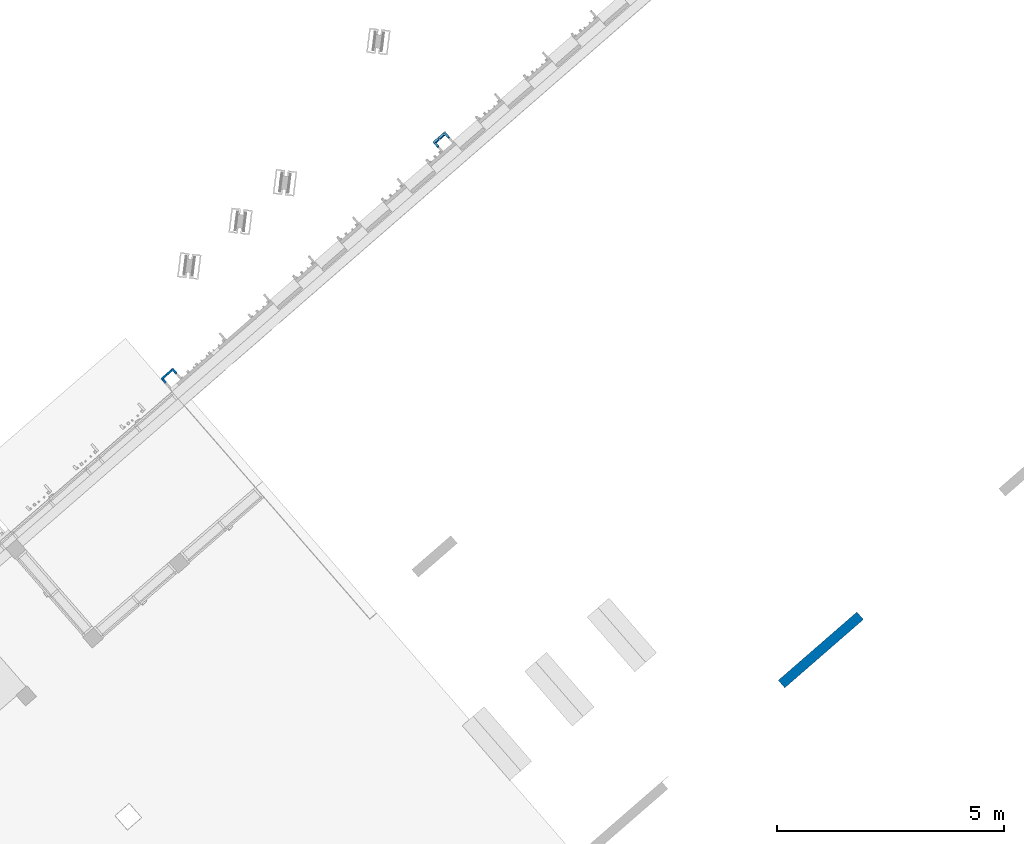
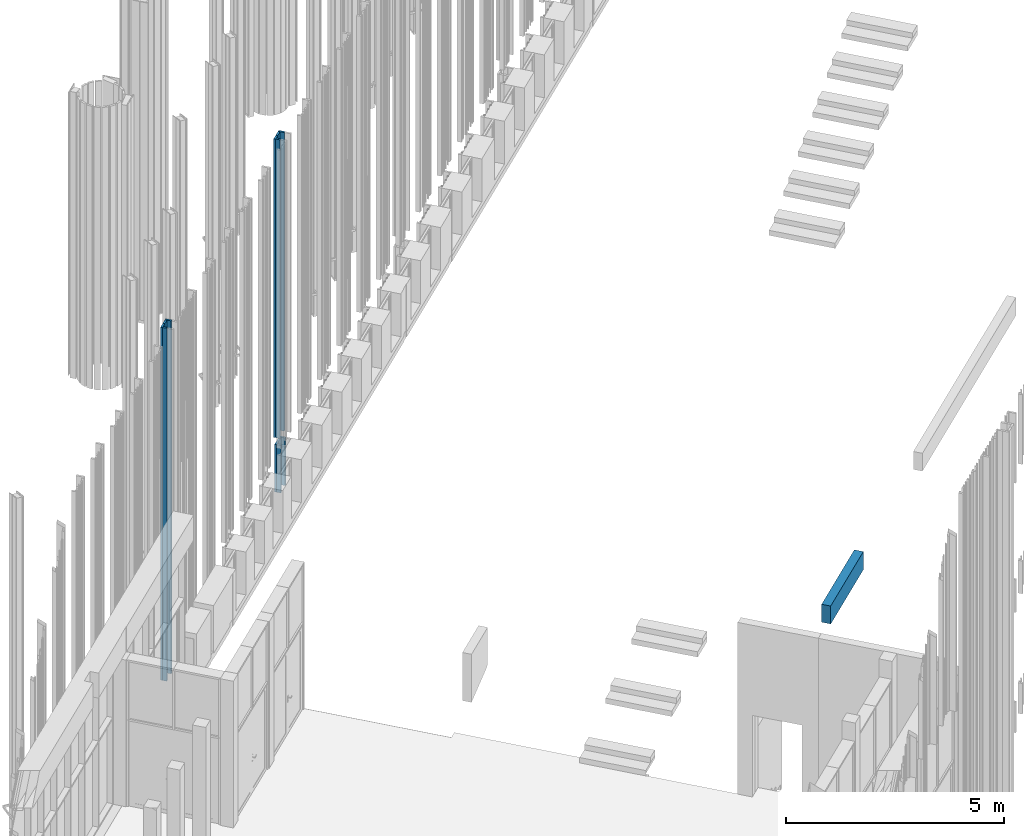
# One storey, part 20 of 390: 13 walls.
"""IFC2X3 building model written with IfcOpenShell, lengths in millimetres."""

import ifcopenshell
import ifcopenshell.guid

model = None  # the IFC model being written
_history = None  # IfcOwnerHistory: only IFC2X3 demands one
_inside = {}  # id of a spatial element -> (the spatial element, [elements in it])
_under = {}  # id of a project, library or spatial element -> (it, [spatial elements below it])
_declared = {}  # id of a project -> (the project, [libraries it declares])
_typed = {}  # id of a type object -> (the type object, [elements of that type])
_made_of = {}  # id of a material, layer set ... -> (it, [elements and type objects made of it])


def new_model(schema):
    """Start an empty IFC model of exactly this schema.

    Asked for "IFC4X3", IfcOpenShell would pick the latest addendum, in which some entities
    have other attributes; the version numbers below select the first issue.
    IFC2X3 requires an IfcOwnerHistory on every rooted entity: one is made here for all.
    """
    global model, _history
    if schema == "IFC4X3":
        model = ifcopenshell.file(schema_version=(4, 3, 0, 0))
    else:
        model = ifcopenshell.file(schema=schema)
    _inside.clear()
    _under.clear()
    _declared.clear()
    _typed.clear()
    _made_of.clear()
    _history = None
    if model.schema == "IFC2X3":
        org = make("IfcOrganization", Name="unknown")
        user = make(
            "IfcPersonAndOrganization",
            ThePerson=make("IfcPerson", FamilyName="unknown"),
            TheOrganization=org,
        )
        app = make(
            "IfcApplication",
            ApplicationDeveloper=org,
            Version="unknown",
            ApplicationFullName="unknown",
            ApplicationIdentifier="unknown",
        )
        _history = make(
            "IfcOwnerHistory",
            OwningUser=user,
            OwningApplication=app,
            ChangeAction="ADDED",
            CreationDate=0,
        )
    return model


def make(cls, **values):
    """One entity of the class cls with the attributes given. An attribute that is None is left unset."""
    return model.create_entity(
        cls, **{name: value for name, value in values.items() if value is not None}
    )


def entity(cls, *values):
    """Any entity or typed value of the class cls, its attributes in the order of the schema. None: left unset."""
    e = model.create_entity(cls)
    for i, value in enumerate(values):
        if value is not None:
            e[i] = value
    return e


def rooted(cls, **values):
    """An entity with a GlobalId (a new one), such as an element, a storey or a relation."""
    return make(cls, GlobalId=ifcopenshell.guid.new(), OwnerHistory=_history, **values)


def si_unit(unit_type, name, prefix=None):
    """IfcSIUnit, for example si_unit("LENGTHUNIT", "METRE", prefix="MILLI")."""
    return make("IfcSIUnit", UnitType=unit_type, Prefix=prefix, Name=name)


def converted_unit(unit_type, name, factor, base, dimensions=None, offset=None):
    """IfcConversionBasedUnit, such as the inch: factor (a typed value) times the base unit."""
    return make(
        "IfcConversionBasedUnit"
        if offset is None
        else "IfcConversionBasedUnitWithOffset",
        ConversionOffset=offset,
        Dimensions=None
        if dimensions is None
        else entity("IfcDimensionalExponents", *dimensions),
        UnitType=unit_type,
        Name=name,
        ConversionFactor=make(
            "IfcMeasureWithUnit", ValueComponent=factor, UnitComponent=base
        ),
    )


def derived_unit(unit_type, elements):
    """IfcDerivedUnit: a product of units, each with its exponent."""
    return make(
        "IfcDerivedUnit",
        Elements=[
            make("IfcDerivedUnitElement", Unit=unit, Exponent=power)
            for unit, power in elements
        ],
        UnitType=unit_type,
    )


def money_unit(currency):
    """IfcMonetaryUnit."""
    return make("IfcMonetaryUnit", Currency=currency)


def assignment(units):
    """IfcUnitAssignment: the units of a project."""
    return None if units is None else make("IfcUnitAssignment", Units=units)


def point(xyz):
    """IfcCartesianPoint."""
    return None if xyz is None else make("IfcCartesianPoint", Coordinates=xyz)


def direction(xyz):
    """IfcDirection."""
    return None if xyz is None else make("IfcDirection", DirectionRatios=xyz)


def frame(location, z_axis=None, x_axis=None):
    """IfcAxis2Placement3D, a coordinate frame: its origin and axes. An axis left out is left unset."""
    return make(
        "IfcAxis2Placement3D",
        Location=point(location),
        Axis=direction(z_axis),
        RefDirection=direction(x_axis),
    )


def frame_2d(location, x_axis=None):
    """IfcAxis2Placement2D, a coordinate frame in the plane: its origin and x axis."""
    return make(
        "IfcAxis2Placement2D", Location=point(location), RefDirection=direction(x_axis)
    )


def origin_with_axes():
    """The frame at (0, 0, 0) with the z axis (0, 0, 1) and the x axis (1, 0, 0) written out."""
    return frame((0.0, 0.0, 0.0), z_axis=(0.0, 0.0, 1.0), x_axis=(1.0, 0.0, 0.0))


def origin_2d_with_axis():
    """The frame at (0, 0) in the plane with the x axis (1, 0) written out."""
    return frame_2d((0.0, 0.0), x_axis=(1.0, 0.0))


def place(relative_to, where):
    """IfcLocalPlacement: puts the frame where relative to a parent placement (None: the world)."""
    return make(
        "IfcLocalPlacement", PlacementRelTo=relative_to, RelativePlacement=where
    )


def context(
    kind, dimensions, precision=None, world=None, true_north=None, identifier=None
):
    """IfcGeometricRepresentationContext, for example the 3D "Model" context."""
    return make(
        "IfcGeometricRepresentationContext",
        ContextIdentifier=identifier,
        ContextType=kind,
        CoordinateSpaceDimension=dimensions,
        Precision=precision,
        WorldCoordinateSystem=world,
        TrueNorth=true_north,
    )


def subcontext(parent, identifier, kind, view, scale=None):
    """IfcGeometricRepresentationSubContext, for example "Body" below "Model"."""
    return make(
        "IfcGeometricRepresentationSubContext",
        ContextIdentifier=identifier,
        ContextType=kind,
        ParentContext=parent,
        TargetScale=scale,
        TargetView=view,
    )


def project(units=None, contexts=None):
    """IfcProject with its units and contexts."""
    return rooted(
        "IfcProject",
        Name="project",
        RepresentationContexts=contexts,
        UnitsInContext=assignment(units),
    )


def spatial(cls, under=None, at=None, **own):
    """A site, building, storey or space (cls), placed at a placement, below another one or the project."""
    s = rooted(cls, ObjectPlacement=at, **own)
    if under is not None:
        _under.setdefault(under.id(), (under, []))[1].append(s)
    return s


def polyline(points):
    """IfcPolyline through the points."""
    return make("IfcPolyline", Points=[point(p) for p in points])


def profile(cls, at=None, kind="AREA", **sizes):
    """A parametric profile (cls). Its sizes go by their IFC names, for example OverallWidth=200.0."""
    return make(cls, ProfileType=kind, Position=at, **sizes)


def rectangle(**sizes):
    """IfcRectangleProfileDef."""
    return profile("IfcRectangleProfileDef", **sizes)


def outline(outer, holes=None, kind="AREA"):
    """IfcArbitraryClosedProfileDef: a profile drawn as a closed curve; with holes, ...WithVoids."""
    if holes is None:
        return make("IfcArbitraryClosedProfileDef", ProfileType=kind, OuterCurve=outer)
    return make(
        "IfcArbitraryProfileDefWithVoids",
        ProfileType=kind,
        OuterCurve=outer,
        InnerCurves=holes,
    )


def extrude(swept, where, along, depth):
    """IfcExtrudedAreaSolid: the profile swept, set in the frame where, extruded along a direction by depth."""
    return make(
        "IfcExtrudedAreaSolid",
        SweptArea=swept,
        Position=where,
        ExtrudedDirection=direction(along),
        Depth=depth,
    )


def shape(context_of_items, identifier, shape_type, items):
    """IfcShapeRepresentation: the items that make up one representation, for example the "Body"."""
    return make(
        "IfcShapeRepresentation",
        ContextOfItems=context_of_items,
        RepresentationIdentifier=identifier,
        RepresentationType=shape_type,
        Items=items,
    )


def material(Name=None, Category=None):
    """IfcMaterial."""
    return make("IfcMaterial", Name=Name, Category=Category)


def layer(
    of_material, thickness, ventilated=None, Name=None, Category=None, Priority=None
):
    """IfcMaterialLayer: one layer of a wall or slab, of a material (None: an air gap)."""
    return make(
        "IfcMaterialLayer",
        Material=of_material,
        LayerThickness=thickness,
        IsVentilated=ventilated,
        Name=Name,
        Category=Category,
        Priority=Priority,
    )


def layer_set(layers, Name=None):
    """IfcMaterialLayerSet."""
    return make("IfcMaterialLayerSet", MaterialLayers=layers, LayerSetName=Name)


def layer_usage(for_layer_set, set_direction, sense, offset, extent=None):
    """IfcMaterialLayerSetUsage: how a layer set lies in its element."""
    return make(
        "IfcMaterialLayerSetUsage",
        ForLayerSet=for_layer_set,
        LayerSetDirection=set_direction,
        DirectionSense=sense,
        OffsetFromReferenceLine=offset,
        ReferenceExtent=extent,
    )


def made_of(thing, what):
    """Note that an element or type object is made of a material, layer set ...; save() writes the relation."""
    if what is not None:
        _made_of.setdefault(what.id(), (what, []))[1].append(thing)
    return thing


def type_object(cls, material=None, **own):
    """A type object (cls), such as IfcWallType, which elements share."""
    return made_of(rooted(cls, **own), material)


def element(
    cls,
    number,
    at=None,
    inside=None,
    cuts=None,
    type_object=None,
    material=None,
    context=None,
    identifier="Body",
    shape_type=None,
    held_by="IfcProductDefinitionShape",
    body=None,
    shapes=None,
    **own,
):
    """One element of the class cls, such as IfcWall. Its Tag is "e" and its number.

    at: its placement. inside: the storey or other place that contains it. cuts: it is an
    opening in that element (IfcRelVoidsElement). A single representation is given by context,
    identifier, shape_type and body (its items); several are given by shapes. held_by: the class
    of the entity that holds the representations. save() writes the other relations.
    """
    e = rooted(cls, Tag="e%d" % number, ObjectPlacement=at, **own)
    if body is not None:
        shapes = [shape(context, identifier, shape_type, body)]
    if shapes is not None:
        e.Representation = make(held_by, Representations=shapes)
    if inside is not None:
        _inside.setdefault(inside.id(), (inside, []))[1].append(e)
    if cuts is not None:
        rooted(
            "IfcRelVoidsElement", RelatingBuildingElement=cuts, RelatedOpeningElement=e
        )
    if type_object is not None:
        _typed.setdefault(type_object.id(), (type_object, []))[1].append(e)
    return made_of(e, material)


def aggregate(whole, parts):
    """IfcRelAggregates: a whole, such as a stair, and the parts it consists of."""
    return rooted("IfcRelAggregates", RelatingObject=whole, RelatedObjects=parts)


def save(model, path):
    """Write the relations noted so far, then the file.

    IfcRelAggregates (storeys below a building ...), IfcRelContainedInSpatialStructure (elements
    in a storey), IfcRelDefinesByType, IfcRelAssociatesMaterial and IfcRelDeclares: one each for
    every whole, place, type object, material and project.
    """
    for whole, parts in _under.values():
        aggregate(whole, parts)
    for where, things in _inside.values():
        rooted(
            "IfcRelContainedInSpatialStructure",
            RelatedElements=things,
            RelatingStructure=where,
        )
    for kind, things in _typed.values():
        rooted("IfcRelDefinesByType", RelatedObjects=things, RelatingType=kind)
    for what, things in _made_of.values():
        rooted("IfcRelAssociatesMaterial", RelatedObjects=things, RelatingMaterial=what)
    for by, libraries in _declared.values():
        rooted("IfcRelDeclares", RelatingContext=by, RelatedDefinitions=libraries)
    model.write(path)


model = new_model("IFC2X3")

# Units and contexts
model_context = context("Model", 3, precision=1e-05, world=origin_with_axes(), true_north=direction((0.0, 1.0)))
body_context = subcontext(model_context, "Body", "Model", "MODEL_VIEW")
ifc_project = project(units=[si_unit("LENGTHUNIT", "METRE", prefix="MILLI"), si_unit("AREAUNIT", "SQUARE_METRE"), si_unit("VOLUMEUNIT", "CUBIC_METRE"), converted_unit("PLANEANGLEUNIT", "DEGREE", entity("IfcPlaneAngleMeasure", 0.0174532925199), si_unit("PLANEANGLEUNIT", "RADIAN"), dimensions=[0, 0, 0, 0, 0, 0, 0]), si_unit("SOLIDANGLEUNIT", "STERADIAN"), money_unit("EUR"), converted_unit("TIMEUNIT", "Year", entity("IfcTimeMeasure", 31556926.0), si_unit("TIMEUNIT", "SECOND"), dimensions=[0, 0, 1, 0, 0, 0, 0]), si_unit("MASSUNIT", "GRAM", prefix="KILO"), si_unit("THERMODYNAMICTEMPERATUREUNIT", "DEGREE_CELSIUS"), si_unit("LUMINOUSINTENSITYUNIT", "LUMEN"), si_unit("ENERGYUNIT", "JOULE", prefix="MEGA"), derived_unit("THERMALCONDUCTANCEUNIT", [(si_unit("POWERUNIT", "WATT"), 1), (si_unit("LENGTHUNIT", "METRE"), -1), (si_unit("THERMODYNAMICTEMPERATUREUNIT", "KELVIN"), -1)]), derived_unit("SPECIFICHEATCAPACITYUNIT", [(si_unit("ENERGYUNIT", "JOULE"), 1), (si_unit("MASSUNIT", "GRAM", prefix="KILO"), -1), (si_unit("THERMODYNAMICTEMPERATUREUNIT", "KELVIN"), -1)]), derived_unit("MASSDENSITYUNIT", [(si_unit("MASSUNIT", "GRAM", prefix="KILO"), 1), (si_unit("VOLUMEUNIT", "CUBIC_METRE"), -1)])], contexts=[model_context])

# Site, building, storey
site_placement = place(None, origin_with_axes())
site = spatial("IfcSite", under=ifc_project, at=site_placement, Name="Site", CompositionType="ELEMENT")
building_placement = place(site_placement, origin_with_axes())
building = spatial("IfcBuilding", under=site, at=building_placement, Name="Building", CompositionType="ELEMENT")
storey_placement = place(building_placement, origin_with_axes())
storey = spatial("IfcBuildingStorey", under=building, at=storey_placement, Name="1 korrus", CompositionType="ELEMENT", Elevation=0.0)

# Walls
ifc_material_1 = material(Name="Krohv - Lubjakivi")
ifc_layer_1 = layer(ifc_material_1, 10.0, ventilated="UNKNOWN")
ifc_material_2 = material(Name="Raudbetoon - Konstruktsioon")
ifc_layer_2 = layer(ifc_material_2, 200.0, ventilated="UNKNOWN")
ifc_layer_3 = layer(ifc_material_1, 10.0, ventilated="UNKNOWN")
ifc_layer_set = layer_set([ifc_layer_1, ifc_layer_2, ifc_layer_3], Name="SS-10")
ifc_layer_usage = layer_usage(ifc_layer_set, "AXIS2", "NEGATIVE", 0.0)
wall_type_1 = type_object("IfcWallType", Name="SS-10", PredefinedType="NOTDEFINED")
wall_1_placement = place(storey_placement, frame((151577.864835, 83367.456539, 885.0), z_axis=(0.0, 0.0, 1.0), x_axis=(-0.754709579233, -0.656059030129, 0.0)))
element("IfcWallStandardCase", 1, at=wall_1_placement, inside=storey, type_object=wall_type_1, material=ifc_layer_usage, Name="SS-10", context=body_context, shape_type="SweptSolid", body=[
    extrude(outline(polyline([(0.0, -220.0), (2300.00172594, -220.0), (2300.00172594, 0.0), (0.0, 0.0), (0.0, -220.0)])), origin_with_axes(), (0.0, 0.0, 1.0), 500.0),
])
ifc_material_3 = material(Name="Site specified")
wall_type_2 = type_object("IfcWallType", Name="Puitfassaadi ribisik", PredefinedType="NOTDEFINED")
for number, where, z_axis, x_axis, name in (
    (2, (136367.654292, 88850.6367943, 0.0), (0.0, 0.0, 1.0), (0.754709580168, 0.656059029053, 0.0), "Site specified"),
    (3, (136255.606835, 88819.4860753, 0.0), (0.0, 0.0, 1.0), (-0.656059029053, 0.754709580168, 0.0), "Site specified"),
):
    element("IfcWall", number, at=place(storey_placement, frame(where, z_axis=z_axis, x_axis=x_axis)), inside=storey, type_object=wall_type_2, material=ifc_material_3, Name=name, context=body_context, shape_type="SweptSolid", body=[
        extrude(rectangle(XDim=50.0, YDim=150.0, at=origin_2d_with_axis()), origin_with_axes(), (0.0, 0.0, 1.0), 9864.9999949),
    ])
wall_2_placement = place(storey_placement, frame((136150.095796, 88628.3907083, 0.0), z_axis=(0.0, 0.0, 1.0), x_axis=(0.754709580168, 0.656059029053, 0.0)))
element("IfcWall", 4, at=wall_2_placement, inside=storey, type_object=wall_type_2, material=ifc_material_3, Name="Site specified", context=body_context, shape_type="SweptSolid", body=[
    extrude(rectangle(XDim=50.0, YDim=100.000069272, at=origin_2d_with_axis()), origin_with_axes(), (0.0, 0.0, 1.0), 9864.9999949),
])
wall_3_placement = place(storey_placement, frame((136138.62685, 88717.7969257, 0.0), z_axis=(0.0, 0.0, 1.0), x_axis=(-0.656059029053, 0.754709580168, 0.0)))
element("IfcWall", 5, at=wall_3_placement, inside=storey, type_object=wall_type_2, material=ifc_material_3, Name="Site specified", context=body_context, shape_type="SweptSolid", body=[
    extrude(rectangle(XDim=50.0, YDim=150.0, at=origin_2d_with_axis()), origin_with_axes(), (0.0, 0.0, 1.0), 9864.9999949),
])
wall_4_placement = place(storey_placement, frame((142156.676186, 93918.7321032, 0.0), z_axis=(0.0, 0.0, 1.0), x_axis=(-0.656059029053, 0.754709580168, 0.0)))
element("IfcWall", 6, at=wall_4_placement, inside=storey, type_object=wall_type_2, material=ifc_material_3, Name="Site specified", context=body_context, shape_type="SweptSolid", body=[
    extrude(rectangle(XDim=50.0, YDim=150.0, at=origin_2d_with_axis()), origin_with_axes(), (0.0, 0.0, 1.0), 1329.9999949),
])
wall_5_placement = place(storey_placement, frame((142168.145132, 93829.3258858, 0.0), z_axis=(0.0, 0.0, 1.0), x_axis=(0.754709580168, 0.656059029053, 0.0)))
element("IfcWall", 7, at=wall_5_placement, inside=storey, type_object=wall_type_2, material=ifc_material_3, Name="Site specified", context=body_context, shape_type="SweptSolid", body=[
    extrude(rectangle(XDim=50.0, YDim=100.000069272, at=origin_2d_with_axis()), origin_with_axes(), (0.0, 0.0, 1.0), 1329.9999949),
])
for number, where, z_axis, x_axis, name in (
    (8, (142273.65617, 94020.4212527, 0.0), (0.0, 0.0, 1.0), (-0.656059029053, 0.754709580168, 0.0), "Site specified"),
    (9, (142385.703628, 94051.5719718, 0.0), (0.0, 0.0, 1.0), (0.754709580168, 0.656059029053, 0.0), "Site specified"),
):
    element("IfcWall", number, at=place(storey_placement, frame(where, z_axis=z_axis, x_axis=x_axis)), inside=storey, type_object=wall_type_2, material=ifc_material_3, Name=name, context=body_context, shape_type="SweptSolid", body=[
        extrude(rectangle(XDim=50.0, YDim=150.0, at=origin_2d_with_axis()), origin_with_axes(), (0.0, 0.0, 1.0), 1329.9999949),
    ])
for number, where, z_axis, x_axis, name in (
    (10, (142370.61427, 94068.9302924, 1518.28178601), (0.0, 0.0, 1.0), (0.754709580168, 0.656059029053, 0.0), "Site specified"),
    (11, (142258.566813, 94037.7795733, 1518.28178601), (0.0, 0.0, 1.0), (-0.656059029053, 0.754709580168, 0.0), "Site specified"),
):
    element("IfcWall", number, at=place(storey_placement, frame(where, z_axis=z_axis, x_axis=x_axis)), inside=storey, type_object=wall_type_2, material=ifc_material_3, Name=name, context=body_context, shape_type="SweptSolid", body=[
        extrude(rectangle(XDim=50.0, YDim=150.0, at=origin_2d_with_axis()), origin_with_axes(), (0.0, 0.0, 1.0), 8346.71820889),
    ])
wall_6_placement = place(storey_placement, frame((142153.055775, 93846.6842064, 1518.28178601), z_axis=(0.0, 0.0, 1.0), x_axis=(0.754709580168, 0.656059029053, 0.0)))
element("IfcWall", 12, at=wall_6_placement, inside=storey, type_object=wall_type_2, material=ifc_material_3, Name="Site specified", context=body_context, shape_type="SweptSolid", body=[
    extrude(rectangle(XDim=50.0, YDim=100.000069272, at=origin_2d_with_axis()), origin_with_axes(), (0.0, 0.0, 1.0), 8346.71820889),
])
wall_7_placement = place(storey_placement, frame((142141.586828, 93936.0904238, 1518.28178601), z_axis=(0.0, 0.0, 1.0), x_axis=(-0.656059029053, 0.754709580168, 0.0)))
element("IfcWall", 13, at=wall_7_placement, inside=storey, type_object=wall_type_2, material=ifc_material_3, Name="Site specified", context=body_context, shape_type="SweptSolid", body=[
    extrude(rectangle(XDim=50.0, YDim=150.0, at=origin_2d_with_axis()), origin_with_axes(), (0.0, 0.0, 1.0), 8346.71820889),
])

save(model, "model.ifc")
